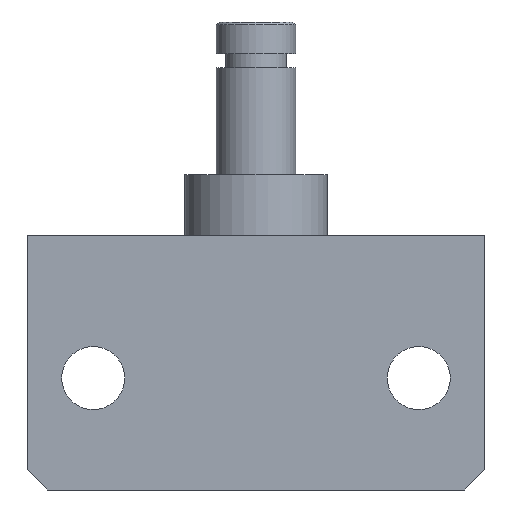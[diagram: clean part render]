
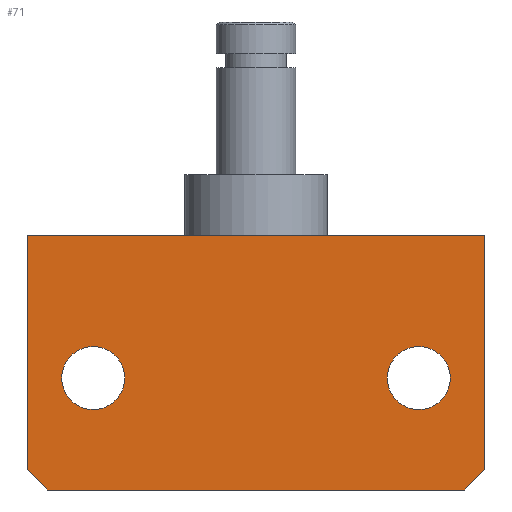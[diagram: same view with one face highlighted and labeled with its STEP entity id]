
A CAD part, front view. The second image highlights one B-rep face of the part: STEP entity #71.
In plain terms, the highlighted planar face has unit normal (0, -1, 0).
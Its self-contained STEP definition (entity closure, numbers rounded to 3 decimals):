
#71 = ADVANCED_FACE( '', ( #155, #156, #157 ), #158, .F. );
#155 = FACE_BOUND( '', #254, .T. );
#156 = FACE_BOUND( '', #255, .T. );
#157 = FACE_OUTER_BOUND( '', #256, .T. );
#158 = PLANE( '', #257 );
#254 = EDGE_LOOP( '', ( #393 ) );
#255 = EDGE_LOOP( '', ( #394 ) );
#256 = EDGE_LOOP( '', ( #395, #396, #397, #398, #399, #400 ) );
#257 = AXIS2_PLACEMENT_3D( '', #401, #402, #403 );
#393 = ORIENTED_EDGE( '', *, *, #544, .F. );
#394 = ORIENTED_EDGE( '', *, *, #517, .F. );
#395 = ORIENTED_EDGE( '', *, *, #539, .T. );
#396 = ORIENTED_EDGE( '', *, *, #512, .F. );
#397 = ORIENTED_EDGE( '', *, *, #505, .T. );
#398 = ORIENTED_EDGE( '', *, *, #545, .F. );
#399 = ORIENTED_EDGE( '', *, *, #532, .T. );
#400 = ORIENTED_EDGE( '', *, *, #535, .T. );
#401 = CARTESIAN_POINT( '', ( 22.5, 0., 0. ) );
#402 = DIRECTION( '', ( 0., 1., 0. ) );
#403 = DIRECTION( '', ( 0., 0., 1. ) );
#505 = EDGE_CURVE( '', #581, #582, #583, .T. );
#512 = EDGE_CURVE( '', #581, #591, #594, .T. );
#517 = EDGE_CURVE( '', #601, #601, #602, .T. );
#532 = EDGE_CURVE( '', #619, #627, #629, .T. );
#535 = EDGE_CURVE( '', #627, #632, #634, .T. );
#539 = EDGE_CURVE( '', #632, #591, #638, .T. );
#544 = EDGE_CURVE( '', #644, #644, #645, .T. );
#545 = EDGE_CURVE( '', #619, #582, #646, .T. );
#581 = VERTEX_POINT( '', #692 );
#582 = VERTEX_POINT( '', #693 );
#583 = LINE( '', #694, #695 );
#591 = VERTEX_POINT( '', #706 );
#594 = LINE( '', #711, #712 );
#601 = VERTEX_POINT( '', #719 );
#602 = CIRCLE( '', #720, 3.1 );
#619 = VERTEX_POINT( '', #737 );
#627 = VERTEX_POINT( '', #749 );
#629 = LINE( '', #752, #753 );
#632 = VERTEX_POINT( '', #756 );
#634 = LINE( '', #759, #760 );
#638 = LINE( '', #766, #767 );
#644 = VERTEX_POINT( '', #774 );
#645 = CIRCLE( '', #775, 3.1 );
#646 = LINE( '', #776, #777 );
#692 = CARTESIAN_POINT( '', ( 20.5, 0., -25. ) );
#693 = CARTESIAN_POINT( '', ( 22.5, 0., -23. ) );
#694 = CARTESIAN_POINT( '', ( 20.5, 0., -25. ) );
#695 = VECTOR( '', #813, 1000. );
#706 = CARTESIAN_POINT( '', ( -20.5, 0., -25. ) );
#711 = CARTESIAN_POINT( '', ( 22.5, 0., -25. ) );
#712 = VECTOR( '', #819, 1000. );
#719 = CARTESIAN_POINT( '', ( 16., 0., -17.1 ) );
#720 = AXIS2_PLACEMENT_3D( '', #826, #827, #828 );
#737 = CARTESIAN_POINT( '', ( 22.5, 0., 0. ) );
#749 = CARTESIAN_POINT( '', ( -22.5, 0., 0. ) );
#752 = CARTESIAN_POINT( '', ( 22.5, 0., 0. ) );
#753 = VECTOR( '', #852, 1000. );
#756 = CARTESIAN_POINT( '', ( -22.5, 0., -23. ) );
#759 = CARTESIAN_POINT( '', ( -22.5, 0., 0. ) );
#760 = VECTOR( '', #854, 1000. );
#766 = CARTESIAN_POINT( '', ( -22.5, 0., -23. ) );
#767 = VECTOR( '', #857, 1000. );
#774 = CARTESIAN_POINT( '', ( -16., 0., -17.1 ) );
#775 = AXIS2_PLACEMENT_3D( '', #862, #863, #864 );
#776 = CARTESIAN_POINT( '', ( 22.5, 0., 0. ) );
#777 = VECTOR( '', #865, 1000. );
#813 = DIRECTION( '', ( 0.707, 0., 0.707 ) );
#819 = DIRECTION( '', ( -1., 0., 0. ) );
#826 = CARTESIAN_POINT( '', ( 16., 0., -14. ) );
#827 = DIRECTION( '', ( 0., -1., 0. ) );
#828 = DIRECTION( '', ( 0., 0., -1. ) );
#852 = DIRECTION( '', ( -1., 0., 0. ) );
#854 = DIRECTION( '', ( 0., 0., -1. ) );
#857 = DIRECTION( '', ( 0.707, 0., -0.707 ) );
#862 = CARTESIAN_POINT( '', ( -16., 0., -14. ) );
#863 = DIRECTION( '', ( 0., -1., 0. ) );
#864 = DIRECTION( '', ( 0., 0., -1. ) );
#865 = DIRECTION( '', ( 0., 0., -1. ) );
